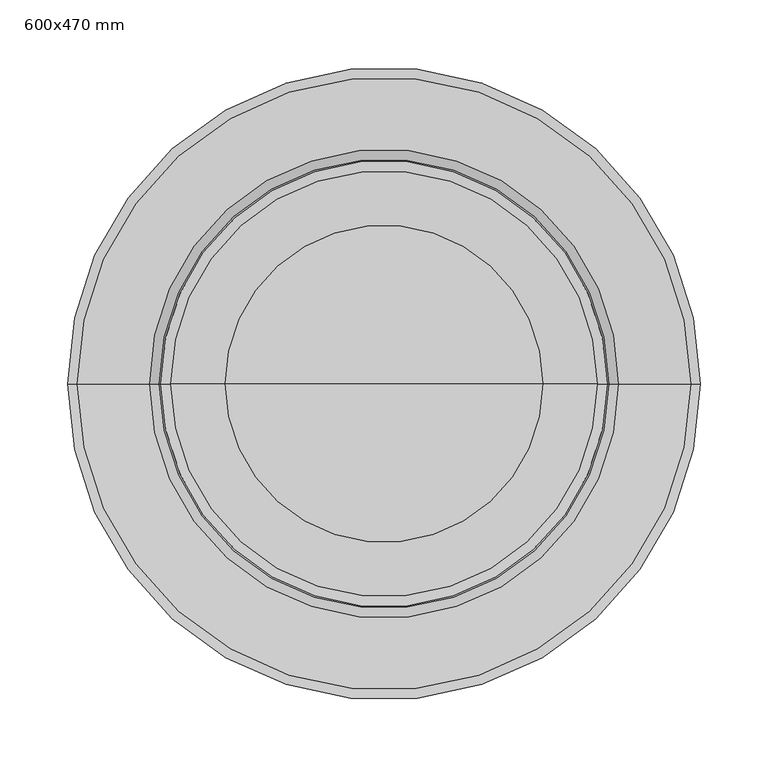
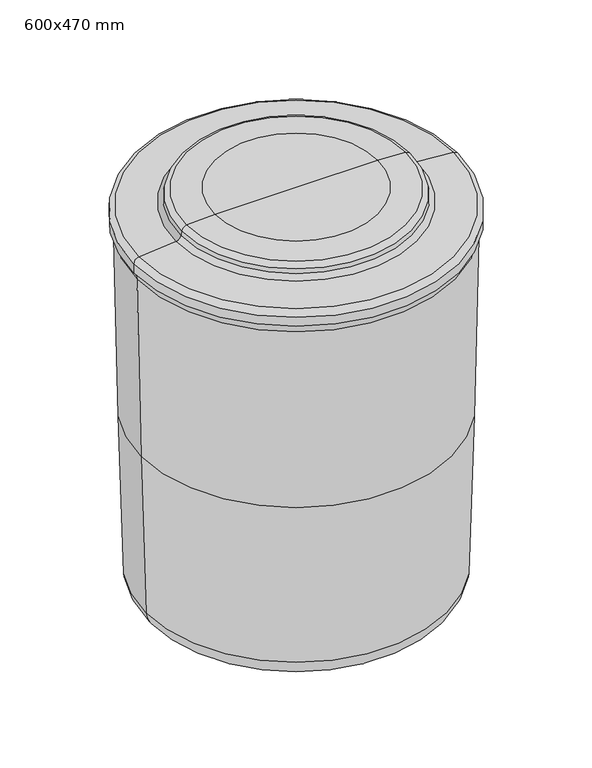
"""IFC4 building model written with IfcOpenShell, lengths in millimetres: proxy geometry, BWT_Bac à sel type 1 : 600x470 mm."""

import ifcopenshell
import ifcopenshell.guid

model = None  # the IFC model being written
_history = None  # IfcOwnerHistory: only IFC2X3 demands one
_inside = {}  # id of a spatial element -> (the spatial element, [elements in it])
_under = {}  # id of a project, library or spatial element -> (it, [spatial elements below it])
_declared = {}  # id of a project -> (the project, [libraries it declares])
_typed = {}  # id of a type object -> (the type object, [elements of that type])
_made_of = {}  # id of a material, layer set ... -> (it, [elements and type objects made of it])


def new_model(schema):
    """Start an empty IFC model of exactly this schema.

    Asked for "IFC4X3", IfcOpenShell would pick the latest addendum, in which some entities
    have other attributes; the version numbers below select the first issue.
    IFC2X3 requires an IfcOwnerHistory on every rooted entity: one is made here for all.
    """
    global model, _history
    if schema == "IFC4X3":
        model = ifcopenshell.file(schema_version=(4, 3, 0, 0))
    else:
        model = ifcopenshell.file(schema=schema)
    _inside.clear()
    _under.clear()
    _declared.clear()
    _typed.clear()
    _made_of.clear()
    _history = None
    if model.schema == "IFC2X3":
        org = make("IfcOrganization", Name="unknown")
        user = make(
            "IfcPersonAndOrganization",
            ThePerson=make("IfcPerson", FamilyName="unknown"),
            TheOrganization=org,
        )
        app = make(
            "IfcApplication",
            ApplicationDeveloper=org,
            Version="unknown",
            ApplicationFullName="unknown",
            ApplicationIdentifier="unknown",
        )
        _history = make(
            "IfcOwnerHistory",
            OwningUser=user,
            OwningApplication=app,
            ChangeAction="ADDED",
            CreationDate=0,
        )
    return model


def make(cls, **values):
    """One entity of the class cls with the attributes given. An attribute that is None is left unset."""
    return model.create_entity(
        cls, **{name: value for name, value in values.items() if value is not None}
    )


def rooted(cls, **values):
    """An entity with a GlobalId (a new one), such as an element, a storey or a relation."""
    return make(cls, GlobalId=ifcopenshell.guid.new(), OwnerHistory=_history, **values)


def si_unit(unit_type, name, prefix=None):
    """IfcSIUnit, for example si_unit("LENGTHUNIT", "METRE", prefix="MILLI")."""
    return make("IfcSIUnit", UnitType=unit_type, Prefix=prefix, Name=name)


def assignment(units):
    """IfcUnitAssignment: the units of a project."""
    return None if units is None else make("IfcUnitAssignment", Units=units)


def point(xyz):
    """IfcCartesianPoint."""
    return None if xyz is None else make("IfcCartesianPoint", Coordinates=xyz)


def direction(xyz):
    """IfcDirection."""
    return None if xyz is None else make("IfcDirection", DirectionRatios=xyz)


def frame(location, z_axis=None, x_axis=None):
    """IfcAxis2Placement3D, a coordinate frame: its origin and axes. An axis left out is left unset."""
    return make(
        "IfcAxis2Placement3D",
        Location=point(location),
        Axis=direction(z_axis),
        RefDirection=direction(x_axis),
    )


def origin():
    """The frame at (0, 0, 0) with its axes left unset."""
    return frame((0.0, 0.0, 0.0))


def place(relative_to, where):
    """IfcLocalPlacement: puts the frame where relative to a parent placement (None: the world)."""
    return make(
        "IfcLocalPlacement", PlacementRelTo=relative_to, RelativePlacement=where
    )


def context(
    kind, dimensions, precision=None, world=None, true_north=None, identifier=None
):
    """IfcGeometricRepresentationContext, for example the 3D "Model" context."""
    return make(
        "IfcGeometricRepresentationContext",
        ContextIdentifier=identifier,
        ContextType=kind,
        CoordinateSpaceDimension=dimensions,
        Precision=precision,
        WorldCoordinateSystem=world,
        TrueNorth=true_north,
    )


def project(units=None, contexts=None):
    """IfcProject with its units and contexts."""
    return rooted(
        "IfcProject",
        Name="project",
        RepresentationContexts=contexts,
        UnitsInContext=assignment(units),
    )


def spatial(cls, under=None, at=None, **own):
    """A site, building, storey or space (cls), placed at a placement, below another one or the project."""
    s = rooted(cls, ObjectPlacement=at, **own)
    if under is not None:
        _under.setdefault(under.id(), (under, []))[1].append(s)
    return s


def polyline(points):
    """IfcPolyline through the points."""
    return make("IfcPolyline", Points=[point(p) for p in points])


def circle_curve(where, radius):
    """IfcCircle in the frame where."""
    return make("IfcCircle", Position=where, Radius=radius)


def ellipse_curve(where, semi_axis1, semi_axis2):
    """IfcEllipse in the frame where."""
    return make(
        "IfcEllipse", Position=where, SemiAxis1=semi_axis1, SemiAxis2=semi_axis2
    )


def trimmed(basis, trim1, trim2, sense, master):
    """IfcTrimmedCurve: the piece of a basis curve between two trims."""
    return make(
        "IfcTrimmedCurve",
        BasisCurve=basis,
        Trim1=trim1,
        Trim2=trim2,
        SenseAgreement=sense,
        MasterRepresentation=master,
    )


def shape(context_of_items, identifier, shape_type, items):
    """IfcShapeRepresentation: the items that make up one representation, for example the "Body"."""
    return make(
        "IfcShapeRepresentation",
        ContextOfItems=context_of_items,
        RepresentationIdentifier=identifier,
        RepresentationType=shape_type,
        Items=items,
    )


def source(mapping_origin, context_of_items, identifier, shape_type, items):
    """IfcRepresentationMap: a shape defined once, which mapped items show again and again."""
    return make(
        "IfcRepresentationMap",
        MappingOrigin=mapping_origin,
        MappedRepresentation=shape(context_of_items, identifier, shape_type, items),
    )


def transform(
    local_origin,
    x_axis=None,
    y_axis=None,
    z_axis=None,
    scale=None,
    scale2=None,
    scale3=None,
    uniform=True,
):
    """IfcCartesianTransformationOperator3D, or its non-uniform kind. x_axis, y_axis, z_axis: its Axis1, 2, 3."""
    if uniform:
        return make(
            "IfcCartesianTransformationOperator3D",
            Axis1=direction(x_axis),
            Axis2=direction(y_axis),
            LocalOrigin=point(local_origin),
            Scale=scale,
            Axis3=direction(z_axis),
        )
    return make(
        "IfcCartesianTransformationOperator3DnonUniform",
        Axis1=direction(x_axis),
        Axis2=direction(y_axis),
        LocalOrigin=point(local_origin),
        Scale=scale,
        Axis3=direction(z_axis),
        Scale2=scale2,
        Scale3=scale3,
    )


def mapped(mapping_source, mapping_target):
    """IfcMappedItem: shows the shape of a source again, moved by a transform."""
    return make(
        "IfcMappedItem", MappingSource=mapping_source, MappingTarget=mapping_target
    )


def made_of(thing, what):
    """Note that an element or type object is made of a material, layer set ...; save() writes the relation."""
    if what is not None:
        _made_of.setdefault(what.id(), (what, []))[1].append(thing)
    return thing


def element(
    cls,
    number,
    at=None,
    inside=None,
    cuts=None,
    type_object=None,
    material=None,
    context=None,
    identifier="Body",
    shape_type=None,
    held_by="IfcProductDefinitionShape",
    body=None,
    shapes=None,
    **own,
):
    """One element of the class cls, such as IfcWall. Its Tag is "e" and its number.

    at: its placement. inside: the storey or other place that contains it. cuts: it is an
    opening in that element (IfcRelVoidsElement). A single representation is given by context,
    identifier, shape_type and body (its items); several are given by shapes. held_by: the class
    of the entity that holds the representations. save() writes the other relations.
    """
    e = rooted(cls, Tag="e%d" % number, ObjectPlacement=at, **own)
    if body is not None:
        shapes = [shape(context, identifier, shape_type, body)]
    if shapes is not None:
        e.Representation = make(held_by, Representations=shapes)
    if inside is not None:
        _inside.setdefault(inside.id(), (inside, []))[1].append(e)
    if cuts is not None:
        rooted(
            "IfcRelVoidsElement", RelatingBuildingElement=cuts, RelatedOpeningElement=e
        )
    if type_object is not None:
        _typed.setdefault(type_object.id(), (type_object, []))[1].append(e)
    return made_of(e, material)


def aggregate(whole, parts):
    """IfcRelAggregates: a whole, such as a stair, and the parts it consists of."""
    return rooted("IfcRelAggregates", RelatingObject=whole, RelatedObjects=parts)


def save(model, path):
    """Write the relations noted so far, then the file.

    IfcRelAggregates (storeys below a building ...), IfcRelContainedInSpatialStructure (elements
    in a storey), IfcRelDefinesByType, IfcRelAssociatesMaterial and IfcRelDeclares: one each for
    every whole, place, type object, material and project.
    """
    for whole, parts in _under.values():
        aggregate(whole, parts)
    for where, things in _inside.values():
        rooted(
            "IfcRelContainedInSpatialStructure",
            RelatedElements=things,
            RelatingStructure=where,
        )
    for kind, things in _typed.values():
        rooted("IfcRelDefinesByType", RelatedObjects=things, RelatingType=kind)
    for what, things in _made_of.values():
        rooted("IfcRelAssociatesMaterial", RelatedObjects=things, RelatingMaterial=what)
    for by, libraries in _declared.values():
        rooted("IfcRelDeclares", RelatingContext=by, RelatedDefinitions=libraries)
    model.write(path)


def plane_surface(at):
    """IfcPlane: the flat surface through the origin of the frame at, square to its z axis."""
    return make("IfcPlane", Position=at)


def cylinder_surface(at, radius):
    """IfcCylindricalSurface: all points at the distance radius from the z axis of the frame at."""
    return make("IfcCylindricalSurface", Position=at, Radius=radius)


def revolved_surface(curve, axis_point, axis_direction):
    """IfcSurfaceOfRevolution: the curve turned about the line through axis_point along axis_direction."""
    return make(
        "IfcSurfaceOfRevolution",
        SweptCurve=make("IfcArbitraryOpenProfileDef", ProfileType="CURVE", Curve=curve),
        AxisPosition=make("IfcAxis1Placement", Location=point(axis_point), Axis=direction(axis_direction)),
    )


def advanced_brep(points, edges, surfaces, faces):
    """IfcAdvancedBrep: a solid bounded by faces that lie on surfaces and meet in shared edges.

    An edge is (start, end): straight between two places in points (the first is 0);
    or (start, end, curve); or (start, end, curve, False) where it runs against its curve.
    A face is (place in surfaces, loops), or (place, loops, False) where it looks against
    its surface's normal. A loop lists edges by number (the first is 1), with a minus sign
    where the edge is run from its end to its start. The first loop is the outer one.
    """
    corners = [point(p) for p in points]
    vertices = [make("IfcVertexPoint", VertexGeometry=c) for c in corners]
    made = []
    for start, end, *more in edges:
        made.append(
            make(
                "IfcEdgeCurve",
                EdgeStart=vertices[start],
                EdgeEnd=vertices[end],
                EdgeGeometry=more[0] if more else make("IfcPolyline", Points=[corners[start], corners[end]]),
                SameSense=more[1] if len(more) > 1 else True,
            )
        )
    hull = []
    for where, loops, *sense in faces:
        bounds = []
        for j, loop in enumerate(loops):
            ring = [make("IfcOrientedEdge", EdgeElement=made[abs(k) - 1], Orientation=k > 0) for k in loop]
            bounds.append(
                make(
                    "IfcFaceOuterBound" if j == 0 else "IfcFaceBound",
                    Bound=make("IfcEdgeLoop", EdgeList=ring),
                    Orientation=True,
                )
            )
        hull.append(make("IfcAdvancedFace", Bounds=bounds, FaceSurface=surfaces[where], SameSense=sense[0] if sense else True))
    return make("IfcAdvancedBrep", Outer=make("IfcClosedShell", CfsFaces=hull))


def proxy_600x470_mm_3bed51a3(model_context):
    return source(origin(), model_context, "Body", "AdvancedBrep", [
        advanced_brep(
        [(223.4607428, 0.0, 268.7394346), (-223.4607428, 0.0, 268.7394346), (-229.0, 0.0, 540.0), (229.0, 0.0, 540.0), (216.4173957, 0.0, 28.3474108), (-216.4173957, 0.0, 28.3474108), (0.0, 0.0, 0.0), (-188.5, 0.0, 0.0), (188.5, 0.0, 0.0), (117.2953745, 0.0, 600.0), (-117.2953745, 0.0, 600.0), (0.0, 0.0, 600.0), (157.6452336, 0.0, 597.7126502), (-157.6452336, 0.0, 597.7126502), (165.105008, 0.0, 591.1127994), (-165.105008, 0.0, 591.1127994), (166.203396, 0.0, 584.8835314), (-166.203396, 0.0, 584.8835314), (173.3846121, 0.0, 578.3031593), (-173.3846121, 0.0, 578.3031593), (226.6972459, 0.0, 573.6389082), (-226.6972459, 0.0, 573.6389082), (234.0, 0.0, 565.6693506), (-234.0, 0.0, 565.6693506), (234.0, 0.0, 552.0), (-234.0, 0.0, 552.0), (231.5506787, 0.0, 552.0), (-231.5506787, 0.0, 552.0)],
        [
            (0, 1, circle_curve(frame((0.0, 0.0, 268.7394346), z_axis=(0.0, 0.0, 1.0), x_axis=(-1.0, 0.0, 0.0)), 223.4607428)),
            (1, 2),
            (2, 3, circle_curve(frame((0.0, 0.0, 540.0), z_axis=(0.0, 0.0, -1.0), x_axis=(-1.0, 0.0, 0.0)), 229.0)),
            (3, 0),
            (1, 0, circle_curve(frame((0.0, 0.0, 268.7394346), z_axis=(0.0, 0.0, 1.0), x_axis=(-1.0, 0.0, 0.0)), 223.4607428)),
            (3, 2, circle_curve(frame((0.0, 0.0, 540.0), z_axis=(0.0, 0.0, -1.0), x_axis=(-1.0, 0.0, 0.0)), 229.0)),
            (4, 5, circle_curve(frame((0.0, 0.0, 28.3474108), z_axis=(0.0, 0.0, 1.0), x_axis=(-1.0, 0.0, 0.0)), 216.4173957)),
            (5, 1),
            (0, 4),
            (5, 4, circle_curve(frame((0.0, 0.0, 28.3474108), z_axis=(0.0, 0.0, 1.0), x_axis=(-1.0, 0.0, 0.0)), 216.4173957)),
            (6, 7),
            (7, 8, circle_curve(frame((0.0, 0.0, 0.0), z_axis=(0.0, 0.0, -1.0), x_axis=(-1.0, 0.0, 0.0)), 188.5)),
            (8, 6),
            (8, 7, circle_curve(frame((0.0, 0.0, 0.0), z_axis=(0.0, 0.0, -1.0), x_axis=(-1.0, 0.0, 0.0)), 188.5)),
            (9, 10, circle_curve(frame((0.0, 0.0, 600.0), z_axis=(0.0, 0.0, 1.0), x_axis=(-1.0, 0.0, 0.0)), 117.2953745)),
            (10, 11),
            (11, 9),
            (10, 9, circle_curve(frame((0.0, 0.0, 600.0), z_axis=(0.0, 0.0, 1.0), x_axis=(-1.0, 0.0, 0.0)), 117.2953745)),
            (12, 13, circle_curve(frame((0.0, 0.0, 597.7126502), z_axis=(0.0, 0.0, 1.0), x_axis=(-1.0, 0.0, 0.0)), 157.6452336)),
            (13, 10),
            (9, 12),
            (13, 12, circle_curve(frame((0.0, 0.0, 597.7126502), z_axis=(0.0, 0.0, 1.0), x_axis=(-1.0, 0.0, 0.0)), 157.6452336)),
            (14, 15, circle_curve(frame((0.0, 0.0, 591.1127994), z_axis=(0.0, 0.0, 1.0), x_axis=(-1.0, 0.0, 0.0)), 165.105008)),
            (15, 13, circle_curve(frame((-157.226546, 0.0, 589.723614), z_axis=(0.0, 1.0, 0.0), x_axis=(1.0, 0.0, 0.0)), 8.0)),
            (12, 14, circle_curve(frame((157.226546, 0.0, 589.723614), z_axis=(0.0, 1.0, 0.0), x_axis=(-1.0, 0.0, 0.0)), 8.0)),
            (15, 14, circle_curve(frame((0.0, 0.0, 591.1127994), z_axis=(0.0, 0.0, 1.0), x_axis=(-1.0, 0.0, 0.0)), 165.105008)),
            (16, 17, circle_curve(frame((0.0, 0.0, 584.8835314), z_axis=(0.0, 0.0, 1.0), x_axis=(-1.0, 0.0, 0.0)), 166.203396)),
            (17, 15),
            (14, 16),
            (17, 16, circle_curve(frame((0.0, 0.0, 584.8835314), z_axis=(0.0, 0.0, 1.0), x_axis=(-1.0, 0.0, 0.0)), 166.203396)),
            (18, 19, circle_curve(frame((0.0, 0.0, 578.3031593), z_axis=(0.0, 0.0, 1.0), x_axis=(-1.0, 0.0, 0.0)), 173.3846121)),
            (19, 17, circle_curve(frame((-174.081858, 0.0, 586.2727169), z_axis=(0.0, -1.0, 0.0), x_axis=(1.0, 0.0, 0.0)), 8.0)),
            (16, 18, circle_curve(frame((174.081858, 0.0, 586.2727169), z_axis=(0.0, -1.0, 0.0), x_axis=(-1.0, 0.0, 0.0)), 8.0)),
            (19, 18, circle_curve(frame((0.0, 0.0, 578.3031593), z_axis=(0.0, 0.0, 1.0), x_axis=(-1.0, 0.0, 0.0)), 173.3846121)),
            (20, 21, circle_curve(frame((0.0, 0.0, 573.6389082), z_axis=(0.0, 0.0, 1.0), x_axis=(-1.0, 0.0, 0.0)), 226.6972459)),
            (21, 19),
            (18, 20),
            (21, 20, circle_curve(frame((0.0, 0.0, 573.6389082), z_axis=(0.0, 0.0, 1.0), x_axis=(-1.0, 0.0, 0.0)), 226.6972459)),
            (22, 23, circle_curve(frame((0.0, 0.0, 565.6693506), z_axis=(0.0, 0.0, 1.0), x_axis=(-1.0, 0.0, 0.0)), 234.0)),
            (23, 21, circle_curve(frame((-226.0, 0.0, 565.6693506), z_axis=(0.0, 1.0, 0.0), x_axis=(1.0, 0.0, 0.0)), 8.0)),
            (20, 22, circle_curve(frame((226.0, 0.0, 565.6693506), z_axis=(0.0, 1.0, 0.0), x_axis=(-1.0, 0.0, 0.0)), 8.0)),
            (23, 22, circle_curve(frame((0.0, 0.0, 565.6693506), z_axis=(0.0, 0.0, 1.0), x_axis=(-1.0, 0.0, 0.0)), 234.0)),
            (24, 25, circle_curve(frame((0.0, 0.0, 552.0), z_axis=(0.0, 0.0, 1.0), x_axis=(-1.0, 0.0, 0.0)), 234.0)),
            (25, 23),
            (22, 24),
            (25, 24, circle_curve(frame((0.0, 0.0, 552.0), z_axis=(0.0, 0.0, 1.0), x_axis=(-1.0, 0.0, 0.0)), 234.0)),
            (26, 27, circle_curve(frame((0.0, 0.0, 552.0), z_axis=(0.0, 0.0, 1.0), x_axis=(-1.0, 0.0, 0.0)), 231.5506787)),
            (27, 25),
            (24, 26),
            (27, 26, circle_curve(frame((0.0, 0.0, 552.0), z_axis=(0.0, 0.0, 1.0), x_axis=(-1.0, 0.0, 0.0)), 231.5506787)),
            (2, 27),
            (26, 3),
            (7, 5, circle_curve(frame((-187.424297, 0.0, 28.9800425), z_axis=(0.0, 1.0, 0.0), x_axis=(1.0, 0.0, 0.0)), 29.0)),
            (4, 8, circle_curve(frame((187.424297, 0.0, 28.9800425), z_axis=(0.0, 1.0, 0.0), x_axis=(-1.0, 0.0, 0.0)), 29.0)),
        ],
        [
            revolved_surface(polyline([(-229.0, 0.0, 540.0), (-223.4607428, 0.0, 268.7394346)]), (0.0, 0.0, 2024.3150031), (0.0, 0.0, -1.0)),
            revolved_surface(polyline([(-223.4607428, 0.0, 268.7394346), (-216.4173957, 0.0, 28.3474108)]), (0.0, 0.0, 2024.3150031), (0.0, 0.0, -1.0)),
            plane_surface(frame((0.0, 0.0, 0.0), z_axis=(0.0, 0.0, -1.0), x_axis=(-1.0, 0.0, 0.0))),
            plane_surface(frame((0.0, 0.0, 600.0), z_axis=(0.0, 0.0, 1.0), x_axis=(-1.0, 0.0, 0.0))),
            revolved_surface(polyline([(-117.2953745, 0.0, 600.0), (-157.6452336, 0.0, 597.7126502)]), (0.0, 0.0, 2024.3150031), (0.0, 0.0, -1.0)),
            revolved_surface(trimmed(ellipse_curve(frame((-157.226546, 0.0, 589.723614), z_axis=(0.0, -1.0, 0.0), x_axis=(1.0, 0.0, 0.0)), 8.0, 8.0), [point((-157.6452336, 0.0, 597.7126502))], [point((-165.105008, 0.0, 591.1127994))], True, "CARTESIAN"), (0.0, 0.0, 2024.3150031), (0.0, 0.0, -1.0)),
            revolved_surface(polyline([(-165.105008, 0.0, 591.1127994), (-166.203396, 0.0, 584.8835314)]), (0.0, 0.0, 2024.3150031), (0.0, 0.0, -1.0)),
            revolved_surface(trimmed(ellipse_curve(frame((-174.081858, 0.0, 586.2727169), z_axis=(0.0, 1.0, 0.0), x_axis=(1.0, 0.0, 0.0)), 8.0, 8.0), [point((-166.203396, 0.0, 584.8835314))], [point((-173.3846121, 0.0, 578.3031593))], True, "CARTESIAN"), (0.0, 0.0, 2024.3150031), (0.0, 0.0, -1.0)),
            revolved_surface(polyline([(-173.3846121, 0.0, 578.3031593), (-226.6972459, 0.0, 573.6389082)]), (0.0, 0.0, 2024.3150031), (0.0, 0.0, -1.0)),
            revolved_surface(trimmed(ellipse_curve(frame((-226.0, 0.0, 565.6693506), z_axis=(0.0, -1.0, 0.0), x_axis=(1.0, 0.0, 0.0)), 8.0, 8.0), [point((-226.6972459, 0.0, 573.6389082))], [point((-234.0, 0.0, 565.6693506))], True, "CARTESIAN"), (0.0, 0.0, 2024.3150031), (0.0, 0.0, -1.0)),
            cylinder_surface(frame((0.0, 0.0, 2024.3150031), z_axis=(0.0, 0.0, -1.0), x_axis=(-1.0, 0.0, 0.0)), 234.0),
            plane_surface(frame((0.0, 0.0, 552.0), z_axis=(0.0, 0.0, -1.0), x_axis=(-1.0, 0.0, 0.0))),
            revolved_surface(polyline([(-231.5506787, 0.0, 552.0), (-229.0, 0.0, 540.0)]), (0.0, 0.0, 2024.3150031), (0.0, 0.0, -1.0)),
            revolved_surface(trimmed(ellipse_curve(frame((-187.424297, 0.0, 28.9800425), z_axis=(0.0, -1.0, 0.0), x_axis=(1.0, 0.0, 0.0)), 29.0, 29.0), [point((-216.4173957, 0.0, 28.3474108))], [point((-188.5, 0.0, 0.0))], True, "CARTESIAN"), (0.0, 0.0, 2024.3150031), (0.0, 0.0, -1.0)),
        ],
        [
            (0, [[1, 2, 3, 4]]),
            (0, [[5, -4, 6, -2]]),
            (1, [[7, 8, -1, 9]]),
            (1, [[10, -9, -5, -8]]),
            (2, [[11, 12, 13]]),
            (2, [[-13, 14, -11]]),
            (3, [[15, 16, 17]]),
            (3, [[18, -17, -16]]),
            (4, [[19, 20, -15, 21]]),
            (4, [[22, -21, -18, -20]]),
            (5, [[23, 24, -19, 25]]),
            (5, [[26, -25, -22, -24]]),
            (6, [[27, 28, -23, 29]]),
            (6, [[30, -29, -26, -28]]),
            (7, [[31, 32, -27, 33]]),
            (7, [[34, -33, -30, -32]]),
            (8, [[35, 36, -31, 37]]),
            (8, [[38, -37, -34, -36]]),
            (9, [[39, 40, -35, 41]]),
            (9, [[42, -41, -38, -40]]),
            (10, [[43, 44, -39, 45]]),
            (10, [[46, -45, -42, -44]]),
            (11, [[47, 48, -43, 49]]),
            (11, [[50, -49, -46, -48]]),
            (12, [[-3, 51, -47, 52]]),
            (12, [[-6, -52, -50, -51]]),
            (13, [[-12, 53, -7, 54]]),
            (13, [[-14, -54, -10, -53]]),
        ],
    ),
    ])


if __name__ == "__main__":
    model = new_model("IFC4")
    model_context = context("Model", 3, world=origin())
    ifc_project = project(units=[si_unit("LENGTHUNIT", "METRE", prefix="MILLI")], contexts=[model_context])
    site = spatial("IfcSite", under=ifc_project)
    building = spatial("IfcBuilding", under=site)
    placement = place(None, origin())
    proxy_600x470_mm_shape = proxy_600x470_mm_3bed51a3(model_context)
    element("IfcBuildingElementProxy", 1, Name="BWT_Bac à sel type 1 : 600x470 mm", ObjectType="BWT_Bac à sel type 1 : 600x470 mm", at=placement, inside=building, context=model_context, shape_type="MappedRepresentation", body=[
        mapped(proxy_600x470_mm_shape, transform((0.0, 0.0, 0.0), x_axis=(1.0, 0.0, 0.0), y_axis=(0.0, 1.0, 0.0), z_axis=(0.0, 0.0, 1.0))),
    ])
    save(model, "model.ifc")
